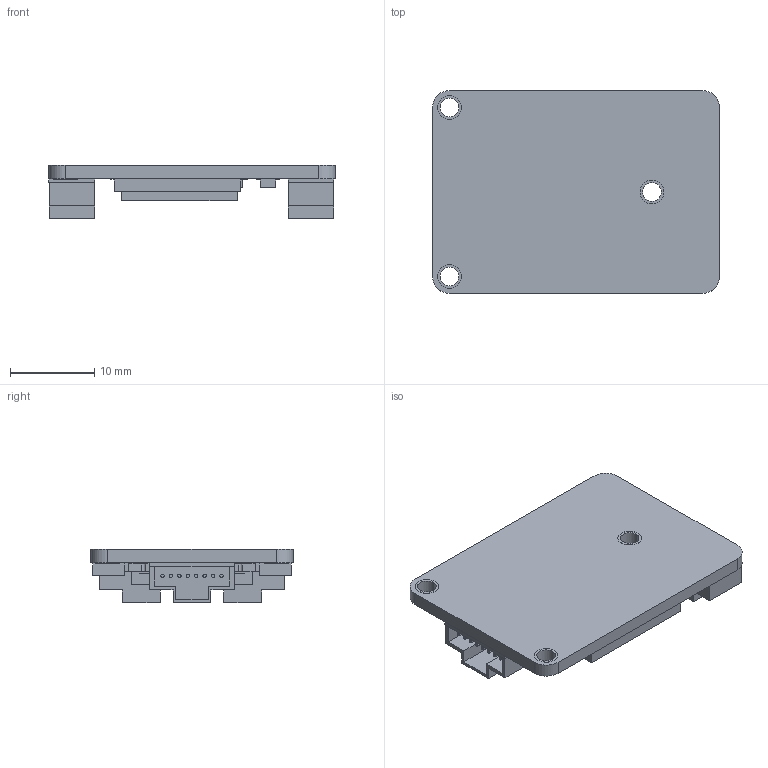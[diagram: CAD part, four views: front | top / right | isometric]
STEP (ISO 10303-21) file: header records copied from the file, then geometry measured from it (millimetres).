
FILE_DESCRIPTION (( 'STEP AP203' ), '1' );
FILE_NAME ('EVAL-HI05-3D.STEP', '2025-06-27T12:34:34', ( '' ), ( '' ), 'SwSTEP 2.0', 'SolidWorks 2016', '' );
FILE_SCHEMA (( 'CONFIG_CONTROL_DESIGN' ));
Length unit declared in the file: millimetre
Products named in the file (1): EVAL-HI05-3D
Bounding box: 34 x 24 x 6.32 mm (x, y, z)
Volume: 2034.2 mm3; surface area: 3962.5 mm2
Topology: 6 solids, 6 shells, 516 faces, 1337 edges, 890 vertices
Faces by surface type: plane 379, cylinder 137
Entity records: 15766 total; most frequent: CARTESIAN_POINT 2744, ORIENTED_EDGE 2674, DIRECTION 2649, EDGE_CURVE 1337, VECTOR 1059, LINE 1059, VERTEX_POINT 890, AXIS2_PLACEMENT_3D 795
